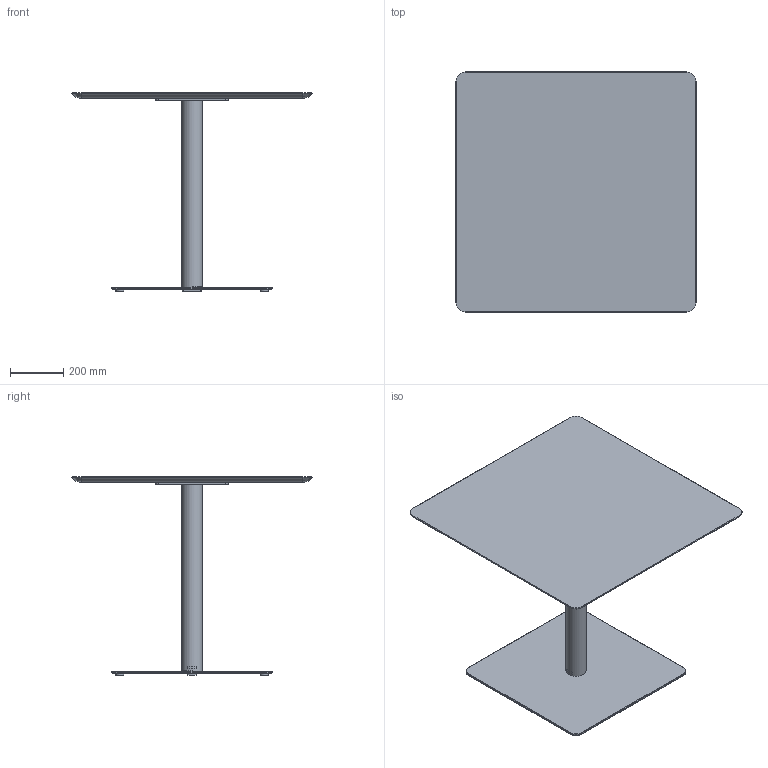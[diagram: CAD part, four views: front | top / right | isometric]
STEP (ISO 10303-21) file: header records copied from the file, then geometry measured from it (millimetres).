
FILE_DESCRIPTION( ('This file contains a STEP AP42 implementation' ,'as created by ZW3D STEP Interface translator.') ,'2;1' );
FILE_NAME( 'Henri - B_Carré - F3 - M3 - 900 x 900 x 750.stp' ,'24 912.171127', (''), ('ZWCAD Software Co.'), 'Version 1.0', 'ZW3D to STEP translator', '' );
FILE_SCHEMA(('AUTOMOTIVE_DESIGN { 1 0 10303 214 1 1 1 1 }'));
Length unit declared in the file: millimetre
Products named in the file (14): 0; PIED BISTROT PARAMETRIQUE_; COLONNE ACIER Ø76 V.02_; TUB-D076-02_; PLA-R76B-01_; CROIX ACIER 370 V.02_; CRX-X370-02_; SOCLE ACIER L 600x600 V.02_; SCL-R600-02_; PLA-R30A-01_; PLA-R30A-01; WUERTH 0276063020 Euro-screw 6.3x2 Verzinkt_; PLATEAU BISTROT PARAMETRIQUE_; insert_m6_13_
Assembly tree (22 placements, depth 3):
  0
  PIED BISTROT PARAMETRIQUE_
    COLONNE ACIER Ø76 V.02_
      TUB-D076-02_
      PLA-R76B-01_  x2
    CROIX ACIER 370 V.02_
      CRX-X370-02_
    SOCLE ACIER L 600x600 V.02_
      SCL-R600-02_
      PLA-R30A-01_
      PLA-R30A-01  x3
    WUERTH 0276063020 Euro-screw 6.3x2 Verzinkt_
    PLATEAU BISTROT PARAMETRIQUE_
      insert_m6_13_  x8
Bounding box: 900 x 900 x 744 mm (x, y, z)
Volume: 19445829 mm3; surface area: 2901973.9 mm2
Topology: 19 solids, 19 shells, 537 faces, 1310 edges, 822 vertices
Faces by surface type: plane 258, bspline 125, cylinder 102, cone 51, torus 1
Full cylindrical faces by diameter (mm): 4.88 x1, 6 x8, 6.3 x1, 8 x45, 12 x2, 14 x2, 30 x4, 72 x1, 76 x1
Entity records: 12340 total; most frequent: CARTESIAN_POINT 3434, ORIENTED_EDGE 1624, DIRECTION 1519, EDGE_CURVE 812, VERTEX_POINT 518, AXIS2_PLACEMENT_3D 507, VECTOR 505, LINE 505
